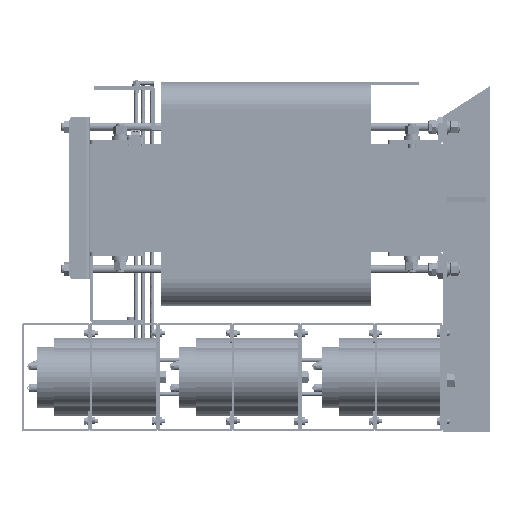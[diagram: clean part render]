
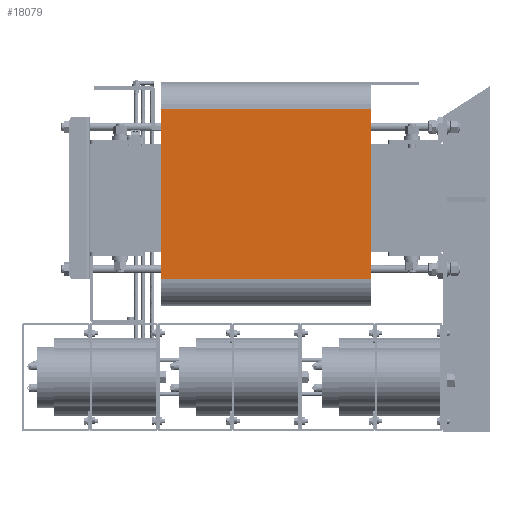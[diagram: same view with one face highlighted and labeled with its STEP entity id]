
A CAD part, left-side view. The second image highlights one B-rep face of the part: STEP entity #18079.
In plain terms, the highlighted planar face has unit normal (-1, 0, 0).
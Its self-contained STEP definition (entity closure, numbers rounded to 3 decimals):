
#18079=ADVANCED_FACE('',(#31053),#31055,.F.);
#31053=FACE_BOUND('',#31054,.T.);
#31054=EDGE_LOOP('',(#50649,#50650,#50651,#50652));
#31055=PLANE('',#31056);
#31056=AXIS2_PLACEMENT_3D('',#31057,#31058,#31059);
#31057=CARTESIAN_POINT('',(-92.5,159.,155.));
#31058=DIRECTION('',(1.,0.,0.));
#31059=DIRECTION('',(0.,1.,0.));
#50649=ORIENTED_EDGE('',*,*,#56622,.T.);
#50650=ORIENTED_EDGE('',*,*,#56640,.T.);
#50651=ORIENTED_EDGE('',*,*,#56604,.F.);
#50652=ORIENTED_EDGE('',*,*,#56641,.T.);
#56604=EDGE_CURVE('',#61369,#61370,#61371,.T.);
#56622=EDGE_CURVE('',#61406,#61404,#61407,.T.);
#56640=EDGE_CURVE('',#61404,#61370,#61437,.T.);
#56641=EDGE_CURVE('',#61369,#61406,#61438,.T.);
#61369=VERTEX_POINT('',#72580);
#61370=VERTEX_POINT('',#72581);
#61371=LINE('',#72582,#72583);
#61404=VERTEX_POINT('',#72657);
#61406=VERTEX_POINT('',#72662);
#61407=LINE('',#72663,#72664);
#61437=LINE('',#72736,#72737);
#61438=LINE('',#72739,#72740);
#72580=CARTESIAN_POINT('',(-92.5,119.,155.));
#72581=CARTESIAN_POINT('',(-92.5,-131.,155.));
#72582=CARTESIAN_POINT('',(-92.5,119.,155.));
#72583=VECTOR('',#72584,1.);
#72584=DIRECTION('',(0.,-1.,0.));
#72657=CARTESIAN_POINT('',(-92.5,-131.,-155.));
#72662=CARTESIAN_POINT('',(-92.5,119.,-155.));
#72663=CARTESIAN_POINT('',(-92.5,119.,-155.));
#72664=VECTOR('',#72665,1.);
#72665=DIRECTION('',(0.,-1.,0.));
#72736=CARTESIAN_POINT('',(-92.5,-131.,-155.));
#72737=VECTOR('',#72738,1.);
#72738=DIRECTION('',(0.,0.,1.));
#72739=CARTESIAN_POINT('',(-92.5,119.,155.));
#72740=VECTOR('',#72741,1.);
#72741=DIRECTION('',(0.,0.,-1.));
